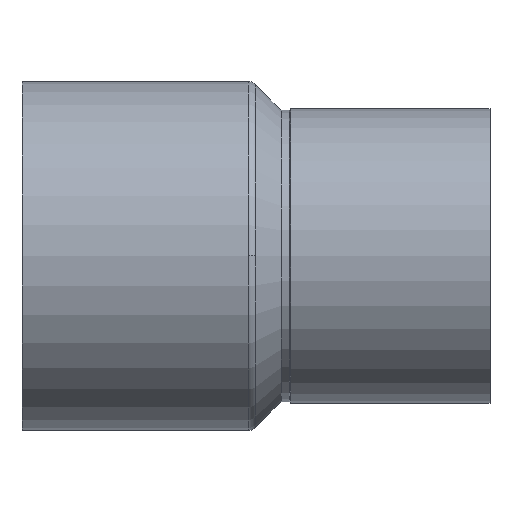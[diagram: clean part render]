
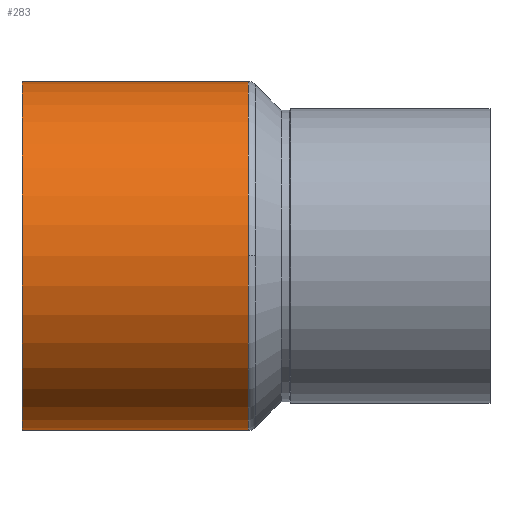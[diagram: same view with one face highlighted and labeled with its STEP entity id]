
A CAD part, top view. The second image highlights one B-rep face of the part: STEP entity #283.
In plain terms, the highlighted cylindrical face has radius 22.375 mm (diameter 44.75 mm), a partial arc.
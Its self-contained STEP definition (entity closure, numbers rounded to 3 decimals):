
#207=CARTESIAN_POINT('',(29.0,22.375,0.0));
#208=VERTEX_POINT('',#207);
#216=CARTESIAN_POINT('',(29.0,0.,22.375));
#217=VERTEX_POINT('',#216);
#218=CARTESIAN_POINT('',(29.0,0.0,0.0));
#219=DIRECTION('',(1.0,0.0,0.0));
#220=DIRECTION('',(0.0,1.0,0.0));
#221=AXIS2_PLACEMENT_3D('',#218,#219,#220);
#222=CIRCLE('',#221,22.375);
#223=EDGE_CURVE('',#208,#217,#222,.T.);
#243=CARTESIAN_POINT('',(14.5,0.0,0.0));
#244=DIRECTION('',(1.0,0.0,0.0));
#245=DIRECTION('',(0.0,1.0,0.0));
#246=AXIS2_PLACEMENT_3D('',#243,#244,#245);
#247=CYLINDRICAL_SURFACE('',#246,22.375);
#248=CARTESIAN_POINT('',(0.0,22.375,0.0));
#249=VERTEX_POINT('',#248);
#250=CARTESIAN_POINT('',(0.0,22.375,0.0));
#251=DIRECTION('',(1.0,0.0,0.0));
#252=VECTOR('',#251,29.0);
#253=LINE('',#250,#252);
#254=EDGE_CURVE('',#249,#208,#253,.T.);
#255=ORIENTED_EDGE('',*,*,#254,.F.);
#256=CARTESIAN_POINT('',(0.0,-22.375,0.));
#257=VERTEX_POINT('',#256);
#258=CARTESIAN_POINT('',(0.0,0.0,0.0));
#259=DIRECTION('',(1.0,0.0,0.0));
#260=DIRECTION('',(0.0,1.0,0.0));
#261=AXIS2_PLACEMENT_3D('',#258,#259,#260);
#262=CIRCLE('',#261,22.375);
#263=EDGE_CURVE('',#249,#257,#262,.T.);
#264=ORIENTED_EDGE('',*,*,#263,.T.);
#265=CARTESIAN_POINT('',(29.0,-22.375,0.));
#266=VERTEX_POINT('',#265);
#267=CARTESIAN_POINT('',(29.0,-22.375,0.));
#268=DIRECTION('',(-1.0,0.0,0.0));
#269=VECTOR('',#268,29.0);
#270=LINE('',#267,#269);
#271=EDGE_CURVE('',#266,#257,#270,.T.);
#272=ORIENTED_EDGE('',*,*,#271,.F.);
#273=CARTESIAN_POINT('',(29.0,0.0,0.0));
#274=DIRECTION('',(1.0,0.0,0.0));
#275=DIRECTION('',(0.0,1.0,0.0));
#276=AXIS2_PLACEMENT_3D('',#273,#274,#275);
#277=CIRCLE('',#276,22.375);
#278=EDGE_CURVE('',#217,#266,#277,.T.);
#279=ORIENTED_EDGE('',*,*,#278,.F.);
#280=ORIENTED_EDGE('',*,*,#223,.F.);
#281=EDGE_LOOP('',(#255,#264,#272,#279,#280));
#282=FACE_OUTER_BOUND('',#281,.T.);
#283=ADVANCED_FACE('',(#282),#247,.T.);
